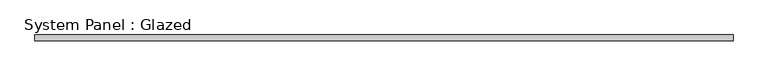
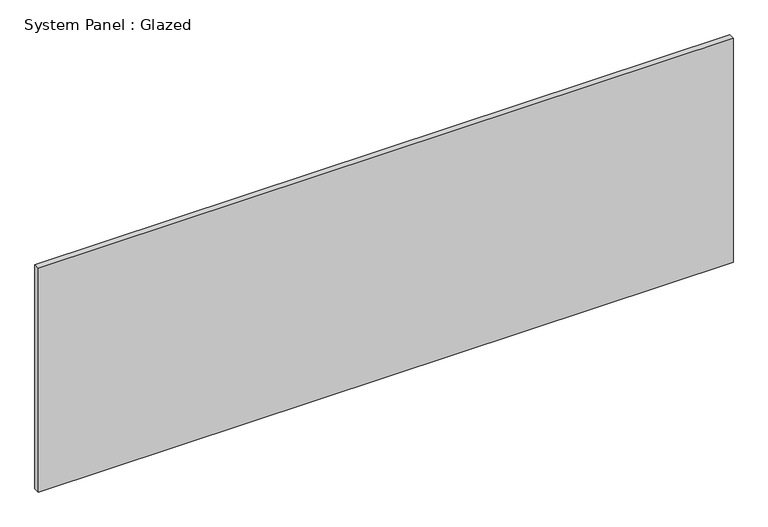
"""IFC4 building model written with IfcOpenShell, lengths in millimetres: plate geometry, System Panel : Glazed."""

from ifc_helpers import new_model, si_unit, origin, origin_with_axes, place, context, project, spatial, polyline, outline, extrude, source, transform, mapped, element, save


def system_panel_glazed_1a95088b(model_context):
    return source(origin(), model_context, "Body", "SweptSolid", [
        extrude(outline(polyline([(1468.8384256, 24.5), (-1468.8384256, 24.5), (-1468.8384256, 49.5), (1468.8384256, 49.5), (1468.8384256, 24.5)])), origin_with_axes(), (0.0, 0.0, 1.0), 1000.0),
    ])


if __name__ == "__main__":
    model = new_model("IFC4")
    model_context = context("Model", 3, world=origin())
    ifc_project = project(units=[si_unit("LENGTHUNIT", "METRE", prefix="MILLI")], contexts=[model_context])
    site = spatial("IfcSite", under=ifc_project)
    building = spatial("IfcBuilding", under=site)
    placement = place(None, origin())
    system_panel_glazed_shape = system_panel_glazed_1a95088b(model_context)
    element("IfcPlate", 1, ObjectType="System Panel : Glazed", at=placement, inside=building, context=model_context, shape_type="MappedRepresentation", body=[
        mapped(system_panel_glazed_shape, transform((0.0, 0.0, 0.0), x_axis=(1.0, 0.0, 0.0), y_axis=(0.0, 1.0, 0.0), z_axis=(0.0, 0.0, 1.0))),
    ])
    save(model, "model.ifc")
